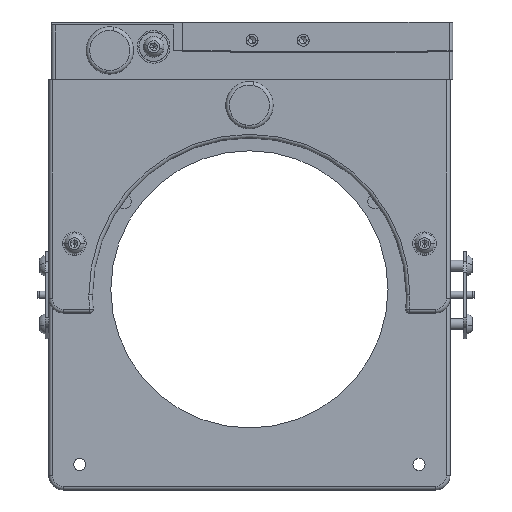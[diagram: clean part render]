
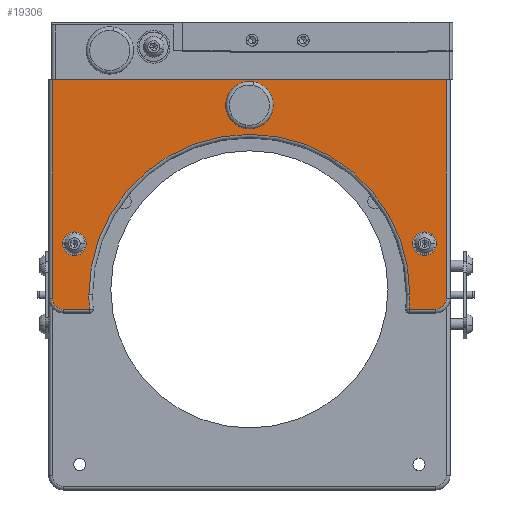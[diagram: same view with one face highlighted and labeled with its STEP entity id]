
A CAD part, front view. The second image highlights one B-rep face of the part: STEP entity #19306.
In plain terms, the highlighted planar face has unit normal (0, -1, 0).
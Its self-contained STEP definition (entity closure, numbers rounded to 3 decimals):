
#196 = EDGE_CURVE ( 'NONE', #14431, #4709, #4296, .T. ) ;
#362 = CARTESIAN_POINT ( 'NONE',  ( -1.812, -13.436, -69.393 ) ) ;
#533 = CARTESIAN_POINT ( 'NONE',  ( -55.812, -13.436, -70.393 ) ) ;
#944 = CIRCLE ( 'NONE', #11348, 3.25 ) ;
#1045 = EDGE_CURVE ( 'NONE', #7237, #19141, #1577, .T. ) ;
#1337 = DIRECTION ( 'NONE',  ( -1., 0., 0. ) ) ;
#1338 = CARTESIAN_POINT ( 'NONE',  ( -55.812, -13.436, -70.393 ) ) ;
#1342 = ORIENTED_EDGE ( 'NONE', *, *, #1045, .F. ) ;
#1345 = AXIS2_PLACEMENT_3D ( 'NONE', #19196, #17381, #13573 ) ;
#1395 = CARTESIAN_POINT ( 'NONE',  ( -1.812, -13.436, -69.393 ) ) ;
#1577 = CIRCLE ( 'NONE', #1345, 4.5 ) ;
#1709 = AXIS2_PLACEMENT_3D ( 'NONE', #22858, #2079, #7646 ) ;
#1962 = CARTESIAN_POINT ( 'NONE',  ( -46.562, -13.436, -55.393 ) ) ;
#2076 = VECTOR ( 'NONE', #15195, 1000. ) ;
#2079 = DIRECTION ( 'NONE',  ( 0., -1., 0. ) ) ;
#2312 = CARTESIAN_POINT ( 'NONE',  ( -44.52, -13.436, -73.393 ) ) ;
#2976 = EDGE_CURVE ( 'NONE', #15217, #9665, #13905, .T. ) ;
#3146 = AXIS2_PLACEMENT_3D ( 'NONE', #362, #17423, #4173 ) ;
#3307 = DIRECTION ( 'NONE',  ( -1., 0., 0. ) ) ;
#3759 = ORIENTED_EDGE ( 'NONE', *, *, #10028, .F. ) ;
#3954 = DIRECTION ( 'NONE',  ( 0., -1., 0. ) ) ;
#3991 = CARTESIAN_POINT ( 'NONE',  ( 42.006, -13.436, -73.393 ) ) ;
#4168 = DIRECTION ( 'NONE',  ( 0., -1., 0. ) ) ;
#4173 = DIRECTION ( 'NONE',  ( -1., 0., 0. ) ) ;
#4234 = CARTESIAN_POINT ( 'NONE',  ( -53.062, -13.436, -55.393 ) ) ;
#4296 = CIRCLE ( 'NONE', #22734, 3.25 ) ;
#4313 = CARTESIAN_POINT ( 'NONE',  ( 42.938, -13.436, -55.393 ) ) ;
#4421 = DIRECTION ( 'NONE',  ( -1., 0., 0. ) ) ;
#4681 = DIRECTION ( 'NONE',  ( 0., -1., 0. ) ) ;
#4709 = VERTEX_POINT ( 'NONE', #8537 ) ;
#4888 = AXIS2_PLACEMENT_3D ( 'NONE', #12555, #12632, #1337 ) ;
#4964 = DIRECTION ( 'NONE',  ( -1., 0., 0. ) ) ;
#5032 = FACE_BOUND ( 'NONE', #5784, .T. ) ;
#5207 = ORIENTED_EDGE ( 'NONE', *, *, #15178, .T. ) ;
#5253 = VERTEX_POINT ( 'NONE', #6857 ) ;
#5310 = FACE_OUTER_BOUND ( 'NONE', #10946, .T. ) ;
#5376 = LINE ( 'NONE', #2312, #20429 ) ;
#5707 = LINE ( 'NONE', #17870, #13368 ) ;
#5784 = EDGE_LOOP ( 'NONE', ( #1342, #3759 ) ) ;
#5910 = AXIS2_PLACEMENT_3D ( 'NONE', #19998, #4681, #19751 ) ;
#6432 = ORIENTED_EDGE ( 'NONE', *, *, #18769, .F. ) ;
#6712 = CARTESIAN_POINT ( 'NONE',  ( -55.812, -13.436, -10.393 ) ) ;
#6813 = ORIENTED_EDGE ( 'NONE', *, *, #16961, .T. ) ;
#6857 = CARTESIAN_POINT ( 'NONE',  ( 42.188, -13.436, -69.393 ) ) ;
#7039 = CIRCLE ( 'NONE', #12309, 44. ) ;
#7080 = CIRCLE ( 'NONE', #3146, 44. ) ;
#7237 = VERTEX_POINT ( 'NONE', #18808 ) ;
#7644 = CIRCLE ( 'NONE', #19185, 3. ) ;
#7646 = DIRECTION ( 'NONE',  ( -1., 0., 0. ) ) ;
#7788 = DIRECTION ( 'NONE',  ( -1., 0., 0. ) ) ;
#8537 = CARTESIAN_POINT ( 'NONE',  ( 49.438, -13.436, -55.393 ) ) ;
#8852 = CIRCLE ( 'NONE', #20478, 3. ) ;
#9108 = EDGE_CURVE ( 'NONE', #20472, #21447, #5376, .T. ) ;
#9131 = LINE ( 'NONE', #16919, #2076 ) ;
#9264 = DIRECTION ( 'NONE',  ( -1., 0., 0. ) ) ;
#9614 = EDGE_LOOP ( 'NONE', ( #20326, #12587 ) ) ;
#9665 = VERTEX_POINT ( 'NONE', #533 ) ;
#10028 = EDGE_CURVE ( 'NONE', #19141, #7237, #20980, .T. ) ;
#10094 = VERTEX_POINT ( 'NONE', #3991 ) ;
#10485 = EDGE_CURVE ( 'NONE', #4709, #14431, #944, .T. ) ;
#10734 = CARTESIAN_POINT ( 'NONE',  ( 49.188, -13.436, -70.393 ) ) ;
#10851 = DIRECTION ( 'NONE',  ( 0., -1., 0. ) ) ;
#10946 = EDGE_LOOP ( 'NONE', ( #12917, #15979, #6813, #12408, #13379, #13510, #5207, #19662, #15475, #15600 ) ) ;
#11161 = EDGE_CURVE ( 'NONE', #22717, #15217, #9131, .T. ) ;
#11164 = CARTESIAN_POINT ( 'NONE',  ( 49.188, -13.436, -73.393 ) ) ;
#11242 = EDGE_CURVE ( 'NONE', #9665, #20472, #7644, .T. ) ;
#11348 = AXIS2_PLACEMENT_3D ( 'NONE', #18299, #16224, #4964 ) ;
#11394 = EDGE_CURVE ( 'NONE', #10094, #15482, #12666, .T. ) ;
#12234 = CARTESIAN_POINT ( 'NONE',  ( -6.312, -13.436, -17.393 ) ) ;
#12239 = VERTEX_POINT ( 'NONE', #1962 ) ;
#12309 = AXIS2_PLACEMENT_3D ( 'NONE', #1395, #22009, #3307 ) ;
#12382 = DIRECTION ( 'NONE',  ( 0., -1., 0. ) ) ;
#12408 = ORIENTED_EDGE ( 'NONE', *, *, #19703, .T. ) ;
#12555 = CARTESIAN_POINT ( 'NONE',  ( -1.812, -13.436, -74.393 ) ) ;
#12587 = ORIENTED_EDGE ( 'NONE', *, *, #10485, .F. ) ;
#12632 = DIRECTION ( 'NONE',  ( 0., -1., 0. ) ) ;
#12666 = LINE ( 'NONE', #14114, #15015 ) ;
#12917 = ORIENTED_EDGE ( 'NONE', *, *, #9108, .T. ) ;
#13368 = VECTOR ( 'NONE', #23400, 1000. ) ;
#13379 = ORIENTED_EDGE ( 'NONE', *, *, #11394, .T. ) ;
#13510 = ORIENTED_EDGE ( 'NONE', *, *, #17048, .T. ) ;
#13573 = DIRECTION ( 'NONE',  ( -1., 0., 0. ) ) ;
#13905 = LINE ( 'NONE', #1338, #15949 ) ;
#14114 = CARTESIAN_POINT ( 'NONE',  ( 49.188, -13.436, -73.393 ) ) ;
#14321 = AXIS2_PLACEMENT_3D ( 'NONE', #14702, #10851, #9264 ) ;
#14360 = VERTEX_POINT ( 'NONE', #22425 ) ;
#14431 = VERTEX_POINT ( 'NONE', #4313 ) ;
#14447 = FACE_BOUND ( 'NONE', #16808, .T. ) ;
#14513 = DIRECTION ( 'NONE',  ( 0., 0., -1. ) ) ;
#14702 = CARTESIAN_POINT ( 'NONE',  ( -49.812, -13.436, -55.393 ) ) ;
#15015 = VECTOR ( 'NONE', #19806, 1000. ) ;
#15178 = EDGE_CURVE ( 'NONE', #17892, #22717, #5707, .T. ) ;
#15195 = DIRECTION ( 'NONE',  ( -1., 0., 0. ) ) ;
#15217 = VERTEX_POINT ( 'NONE', #6712 ) ;
#15405 = AXIS2_PLACEMENT_3D ( 'NONE', #17747, #15589, #15913 ) ;
#15447 = CARTESIAN_POINT ( 'NONE',  ( -52.812, -13.436, -70.393 ) ) ;
#15475 = ORIENTED_EDGE ( 'NONE', *, *, #2976, .T. ) ;
#15482 = VERTEX_POINT ( 'NONE', #11164 ) ;
#15589 = DIRECTION ( 'NONE',  ( 0., 1., 0. ) ) ;
#15600 = ORIENTED_EDGE ( 'NONE', *, *, #11242, .T. ) ;
#15913 = DIRECTION ( 'NONE',  ( -1., 0., 0. ) ) ;
#15949 = VECTOR ( 'NONE', #14513, 1000. ) ;
#15979 = ORIENTED_EDGE ( 'NONE', *, *, #18954, .T. ) ;
#16224 = DIRECTION ( 'NONE',  ( 0., -1., 0. ) ) ;
#16230 = CIRCLE ( 'NONE', #15405, 44. ) ;
#16482 = EDGE_CURVE ( 'NONE', #12239, #21170, #16531, .T. ) ;
#16531 = CIRCLE ( 'NONE', #5910, 3.25 ) ;
#16808 = EDGE_LOOP ( 'NONE', ( #6432, #17460 ) ) ;
#16919 = CARTESIAN_POINT ( 'NONE',  ( 53.188, -13.436, -10.393 ) ) ;
#16961 = EDGE_CURVE ( 'NONE', #14360, #5253, #16230, .T. ) ;
#17048 = EDGE_CURVE ( 'NONE', #15482, #17892, #8852, .T. ) ;
#17381 = DIRECTION ( 'NONE',  ( 0., -1., 0. ) ) ;
#17423 = DIRECTION ( 'NONE',  ( 0., 1., 0. ) ) ;
#17460 = ORIENTED_EDGE ( 'NONE', *, *, #16482, .F. ) ;
#17711 = CARTESIAN_POINT ( 'NONE',  ( 52.188, -13.436, -10.393 ) ) ;
#17747 = CARTESIAN_POINT ( 'NONE',  ( -1.812, -13.436, -69.393 ) ) ;
#17870 = CARTESIAN_POINT ( 'NONE',  ( 52.188, -13.436, -10.393 ) ) ;
#17892 = VERTEX_POINT ( 'NONE', #22315 ) ;
#18233 = DIRECTION ( 'NONE',  ( -1., 0., 0. ) ) ;
#18299 = CARTESIAN_POINT ( 'NONE',  ( 46.188, -13.436, -55.393 ) ) ;
#18769 = EDGE_CURVE ( 'NONE', #21170, #12239, #20126, .T. ) ;
#18808 = CARTESIAN_POINT ( 'NONE',  ( 2.688, -13.436, -17.393 ) ) ;
#18954 = EDGE_CURVE ( 'NONE', #21447, #14360, #7080, .T. ) ;
#19141 = VERTEX_POINT ( 'NONE', #12234 ) ;
#19185 = AXIS2_PLACEMENT_3D ( 'NONE', #15447, #4168, #4421 ) ;
#19196 = CARTESIAN_POINT ( 'NONE',  ( -1.812, -13.436, -17.393 ) ) ;
#19306 = ADVANCED_FACE ( 'NONE', ( #22730, #14447, #5032, #5310 ), #20057, .T. ) ;
#19662 = ORIENTED_EDGE ( 'NONE', *, *, #11161, .T. ) ;
#19703 = EDGE_CURVE ( 'NONE', #5253, #10094, #7039, .T. ) ;
#19751 = DIRECTION ( 'NONE',  ( -1., 0., 0. ) ) ;
#19806 = DIRECTION ( 'NONE',  ( 1., 0., 0. ) ) ;
#19998 = CARTESIAN_POINT ( 'NONE',  ( -49.812, -13.436, -55.393 ) ) ;
#20057 = PLANE ( 'NONE',  #4888 ) ;
#20126 = CIRCLE ( 'NONE', #14321, 3.25 ) ;
#20326 = ORIENTED_EDGE ( 'NONE', *, *, #196, .F. ) ;
#20429 = VECTOR ( 'NONE', #23090, 1000. ) ;
#20472 = VERTEX_POINT ( 'NONE', #24434 ) ;
#20478 = AXIS2_PLACEMENT_3D ( 'NONE', #10734, #12382, #18233 ) ;
#20768 = CARTESIAN_POINT ( 'NONE',  ( 46.188, -13.436, -55.393 ) ) ;
#20980 = CIRCLE ( 'NONE', #1709, 4.5 ) ;
#21170 = VERTEX_POINT ( 'NONE', #4234 ) ;
#21447 = VERTEX_POINT ( 'NONE', #22474 ) ;
#22009 = DIRECTION ( 'NONE',  ( 0., 1., 0. ) ) ;
#22315 = CARTESIAN_POINT ( 'NONE',  ( 52.188, -13.436, -70.393 ) ) ;
#22425 = CARTESIAN_POINT ( 'NONE',  ( -45.812, -13.436, -69.393 ) ) ;
#22474 = CARTESIAN_POINT ( 'NONE',  ( -45.629, -13.436, -73.393 ) ) ;
#22717 = VERTEX_POINT ( 'NONE', #17711 ) ;
#22730 = FACE_BOUND ( 'NONE', #9614, .T. ) ;
#22734 = AXIS2_PLACEMENT_3D ( 'NONE', #20768, #3954, #7788 ) ;
#22858 = CARTESIAN_POINT ( 'NONE',  ( -1.812, -13.436, -17.393 ) ) ;
#23090 = DIRECTION ( 'NONE',  ( 1., 0., 0. ) ) ;
#23400 = DIRECTION ( 'NONE',  ( 0., 0., 1. ) ) ;
#24434 = CARTESIAN_POINT ( 'NONE',  ( -52.812, -13.436, -73.393 ) ) ;
